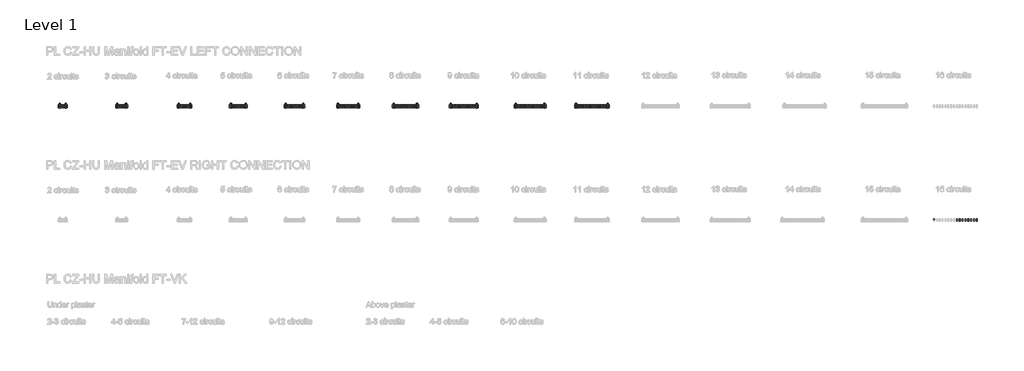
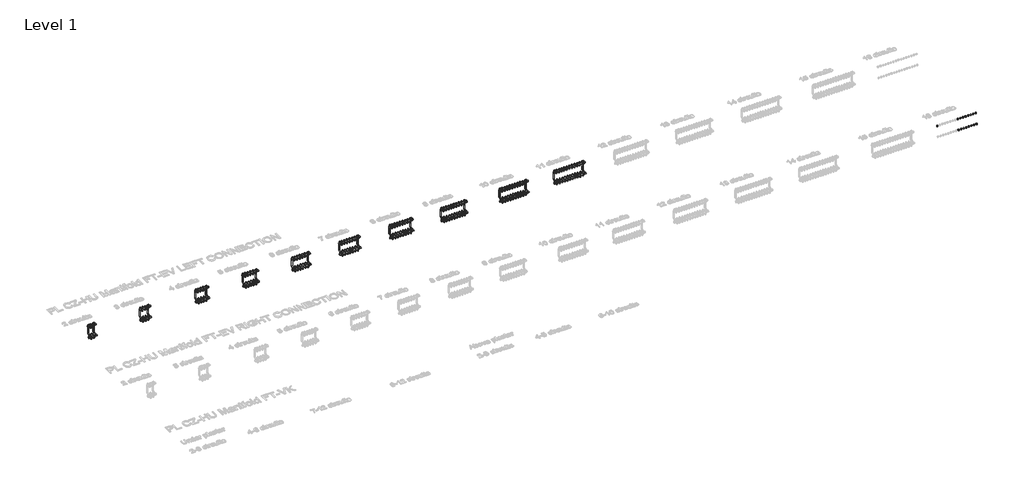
# One storey, part 3 of 13: 126 pipe fittings, 10 valves.
"""IFC4 building model written with IfcOpenShell, lengths in millimetres."""

from ifc_helpers import new_model, si_unit, origin, place, context, project, spatial, transform, mapped, element, save
from components import pipe_fitting_03c6499f, valve_ba84b301, valve_6797e1c4, valve_1d137561, valve_fda01fd1, valve_d8e88841, valve_cedec59f, valve_da24817b, valve_cd8652ac, valve_1cd17e95, valve_440f56c5, valve_c1a5959c, valve_5755080d, valve_f5936556, valve_d1a48dd4, valve_9c135178, valve_fde89ab8, valve_2528c4ae, valve_8079e6f7, valve_ce1a9fe1, valve_b9d05faa, valve_5ebee82e

model = new_model("IFC4")

# Units and contexts
model_context = context("Model", 3, world=origin())
ifc_project = project(units=[si_unit("LENGTHUNIT", "METRE", prefix="MILLI")], contexts=[model_context])

# Site, building, storey
site = spatial("IfcSite", under=ifc_project)
building = spatial("IfcBuilding", under=site)
storey = spatial("IfcBuildingStorey", under=building, Name="Level 1", Elevation=0.0)

# Pipe fittings
placement = place(None, origin())
pipe_fitting_shape = pipe_fitting_03c6499f(model_context)
element("IfcPipeFitting", 1, ObjectType="Euroconus screwing for multilayer pipes - Manifold FT : Euroconus screwing for multilayer pipes - Manifold FT", at=placement, inside=storey, context=model_context, shape_type="MappedRepresentation", body=[
    mapped(pipe_fitting_shape, transform((1338.7757306, 1582.3227774, -37.0816103), x_axis=(0.0, 0.0, -1.0), y_axis=(0.0, 1.0000000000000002, 0.0), z_axis=(1.0000000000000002, 0.0, 0.0))),
])
element("IfcPipeFitting", 2, ObjectType="Euroconus screwing for multilayer pipes - Manifold FT : Euroconus screwing for multilayer pipes - Manifold FT", at=placement, inside=storey, context=model_context, shape_type="MappedRepresentation", body=[
    mapped(pipe_fitting_shape, transform((1288.7757306, 1582.3227774, -37.0816103), x_axis=(0.0, 0.0, -1.0), y_axis=(0.0, 1.0000000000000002, 0.0), z_axis=(1.0000000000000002, 0.0, 0.0))),
])
element("IfcPipeFitting", 3, ObjectType="Euroconus screwing for multilayer pipes - Manifold FT : Euroconus screwing for multilayer pipes - Manifold FT", at=placement, inside=storey, context=model_context, shape_type="MappedRepresentation", body=[
    mapped(pipe_fitting_shape, transform((1338.7757306, 1607.3227774, 172.88733), x_axis=(0.0, 0.0, -1.0), y_axis=(0.0, 1.0000000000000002, 0.0), z_axis=(1.0000000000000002, 0.0, 0.0))),
])
element("IfcPipeFitting", 4, ObjectType="Euroconus screwing for multilayer pipes - Manifold FT : Euroconus screwing for multilayer pipes - Manifold FT", at=placement, inside=storey, context=model_context, shape_type="MappedRepresentation", body=[
    mapped(pipe_fitting_shape, transform((1288.7757306, 1607.3227774, 172.88733), x_axis=(0.0, 0.0, -1.0), y_axis=(0.0, 1.0000000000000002, 0.0), z_axis=(1.0000000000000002, 0.0, 0.0))),
])
element("IfcPipeFitting", 5, ObjectType="Euroconus screwing for multilayer pipes - Manifold FT : Euroconus screwing for multilayer pipes - Manifold FT", at=placement, inside=storey, context=model_context, shape_type="MappedRepresentation", body=[
    mapped(pipe_fitting_shape, transform((2347.2354504, 1582.3227774, -37.0816103), x_axis=(0.0, 0.0, -1.0), y_axis=(0.0, 1.0000000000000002, 0.0), z_axis=(1.0000000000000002, 0.0, 0.0))),
])
element("IfcPipeFitting", 6, ObjectType="Euroconus screwing for multilayer pipes - Manifold FT : Euroconus screwing for multilayer pipes - Manifold FT", at=placement, inside=storey, context=model_context, shape_type="MappedRepresentation", body=[
    mapped(pipe_fitting_shape, transform((2397.2354504, 1582.3227774, -37.0816103), x_axis=(0.0, 0.0, -1.0), y_axis=(0.0, 1.0000000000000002, 0.0), z_axis=(1.0000000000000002, 0.0, 0.0))),
])
element("IfcPipeFitting", 7, ObjectType="Euroconus screwing for multilayer pipes - Manifold FT : Euroconus screwing for multilayer pipes - Manifold FT", at=placement, inside=storey, context=model_context, shape_type="MappedRepresentation", body=[
    mapped(pipe_fitting_shape, transform((2297.2354504, 1582.3227774, -37.0816103), x_axis=(0.0, 0.0, -1.0), y_axis=(0.0, 1.0000000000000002, 0.0), z_axis=(1.0000000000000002, 0.0, 0.0))),
])
element("IfcPipeFitting", 8, ObjectType="Euroconus screwing for multilayer pipes - Manifold FT : Euroconus screwing for multilayer pipes - Manifold FT", at=placement, inside=storey, context=model_context, shape_type="MappedRepresentation", body=[
    mapped(pipe_fitting_shape, transform((2347.2354504, 1607.3227774, 172.88733), x_axis=(0.0, 0.0, -1.0), y_axis=(0.0, 1.0000000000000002, 0.0), z_axis=(1.0000000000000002, 0.0, 0.0))),
])
element("IfcPipeFitting", 9, ObjectType="Euroconus screwing for multilayer pipes - Manifold FT : Euroconus screwing for multilayer pipes - Manifold FT", at=placement, inside=storey, context=model_context, shape_type="MappedRepresentation", body=[
    mapped(pipe_fitting_shape, transform((2397.2354504, 1607.3227774, 172.88733), x_axis=(0.0, 0.0, -1.0), y_axis=(0.0, 1.0000000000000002, 0.0), z_axis=(1.0000000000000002, 0.0, 0.0))),
])
element("IfcPipeFitting", 10, ObjectType="Euroconus screwing for multilayer pipes - Manifold FT : Euroconus screwing for multilayer pipes - Manifold FT", at=placement, inside=storey, context=model_context, shape_type="MappedRepresentation", body=[
    mapped(pipe_fitting_shape, transform((2297.2354504, 1607.3227774, 172.88733), x_axis=(0.0, 0.0, -1.0), y_axis=(0.0, 1.0000000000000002, 0.0), z_axis=(1.0000000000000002, 0.0, 0.0))),
])
element("IfcPipeFitting", 11, ObjectType="Euroconus screwing for multilayer pipes - Manifold FT : Euroconus screwing for multilayer pipes - Manifold FT", at=placement, inside=storey, context=model_context, shape_type="MappedRepresentation", body=[
    mapped(pipe_fitting_shape, transform((3477.2354504, 1582.3227774, -37.0816103), x_axis=(0.0, 0.0, -1.0), y_axis=(0.0, 1.0000000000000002, 0.0), z_axis=(1.0000000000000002, 0.0, 0.0))),
])
element("IfcPipeFitting", 12, ObjectType="Euroconus screwing for multilayer pipes - Manifold FT : Euroconus screwing for multilayer pipes - Manifold FT", at=placement, inside=storey, context=model_context, shape_type="MappedRepresentation", body=[
    mapped(pipe_fitting_shape, transform((3427.2354504, 1582.3227774, -37.0816103), x_axis=(0.0, 0.0, -1.0), y_axis=(0.0, 1.0000000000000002, 0.0), z_axis=(1.0000000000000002, 0.0, 0.0))),
])
element("IfcPipeFitting", 13, ObjectType="Euroconus screwing for multilayer pipes - Manifold FT : Euroconus screwing for multilayer pipes - Manifold FT", at=placement, inside=storey, context=model_context, shape_type="MappedRepresentation", body=[
    mapped(pipe_fitting_shape, transform((3527.2354504, 1582.3227774, -37.0816103), x_axis=(0.0, 0.0, -1.0), y_axis=(0.0, 1.0000000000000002, 0.0), z_axis=(1.0000000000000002, 0.0, 0.0))),
])
element("IfcPipeFitting", 14, ObjectType="Euroconus screwing for multilayer pipes - Manifold FT : Euroconus screwing for multilayer pipes - Manifold FT", at=placement, inside=storey, context=model_context, shape_type="MappedRepresentation", body=[
    mapped(pipe_fitting_shape, transform((3377.2354504, 1582.3227774, -37.0816103), x_axis=(0.0, 0.0, -1.0), y_axis=(0.0, 1.0000000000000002, 0.0), z_axis=(1.0000000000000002, 0.0, 0.0))),
])
element("IfcPipeFitting", 15, ObjectType="Euroconus screwing for multilayer pipes - Manifold FT : Euroconus screwing for multilayer pipes - Manifold FT", at=placement, inside=storey, context=model_context, shape_type="MappedRepresentation", body=[
    mapped(pipe_fitting_shape, transform((3477.2354504, 1607.3227774, 172.88733), x_axis=(0.0, 0.0, -1.0), y_axis=(0.0, 1.0000000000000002, 0.0), z_axis=(1.0000000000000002, 0.0, 0.0))),
])
element("IfcPipeFitting", 16, ObjectType="Euroconus screwing for multilayer pipes - Manifold FT : Euroconus screwing for multilayer pipes - Manifold FT", at=placement, inside=storey, context=model_context, shape_type="MappedRepresentation", body=[
    mapped(pipe_fitting_shape, transform((3427.2354504, 1607.3227774, 172.88733), x_axis=(0.0, 0.0, -1.0), y_axis=(0.0, 1.0000000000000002, 0.0), z_axis=(1.0000000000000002, 0.0, 0.0))),
])
element("IfcPipeFitting", 17, ObjectType="Euroconus screwing for multilayer pipes - Manifold FT : Euroconus screwing for multilayer pipes - Manifold FT", at=placement, inside=storey, context=model_context, shape_type="MappedRepresentation", body=[
    mapped(pipe_fitting_shape, transform((3527.2354504, 1607.3227774, 172.88733), x_axis=(0.0, 0.0, -1.0), y_axis=(0.0, 1.0000000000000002, 0.0), z_axis=(1.0000000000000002, 0.0, 0.0))),
])
element("IfcPipeFitting", 18, ObjectType="Euroconus screwing for multilayer pipes - Manifold FT : Euroconus screwing for multilayer pipes - Manifold FT", at=placement, inside=storey, context=model_context, shape_type="MappedRepresentation", body=[
    mapped(pipe_fitting_shape, transform((3377.2354504, 1607.3227774, 172.88733), x_axis=(0.0, 0.0, -1.0), y_axis=(0.0, 1.0000000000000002, 0.0), z_axis=(1.0000000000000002, 0.0, 0.0))),
])
element("IfcPipeFitting", 19, ObjectType="Euroconus screwing for multilayer pipes - Manifold FT : Euroconus screwing for multilayer pipes - Manifold FT", at=placement, inside=storey, context=model_context, shape_type="MappedRepresentation", body=[
    mapped(pipe_fitting_shape, transform((4447.2354504, 1582.3227774, -37.0816103), x_axis=(0.0, 0.0, -1.0), y_axis=(0.0, 1.0000000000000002, 0.0), z_axis=(1.0000000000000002, 0.0, 0.0))),
])
element("IfcPipeFitting", 20, ObjectType="Euroconus screwing for multilayer pipes - Manifold FT : Euroconus screwing for multilayer pipes - Manifold FT", at=placement, inside=storey, context=model_context, shape_type="MappedRepresentation", body=[
    mapped(pipe_fitting_shape, transform((4397.2354504, 1582.3227774, -37.0816103), x_axis=(0.0, 0.0, -1.0), y_axis=(0.0, 1.0000000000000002, 0.0), z_axis=(1.0000000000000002, 0.0, 0.0))),
])
element("IfcPipeFitting", 21, ObjectType="Euroconus screwing for multilayer pipes - Manifold FT : Euroconus screwing for multilayer pipes - Manifold FT", at=placement, inside=storey, context=model_context, shape_type="MappedRepresentation", body=[
    mapped(pipe_fitting_shape, transform((4347.2354504, 1582.3227774, -37.0816103), x_axis=(0.0, 0.0, -1.0), y_axis=(0.0, 1.0000000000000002, 0.0), z_axis=(1.0000000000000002, 0.0, 0.0))),
])
element("IfcPipeFitting", 22, ObjectType="Euroconus screwing for multilayer pipes - Manifold FT : Euroconus screwing for multilayer pipes - Manifold FT", at=placement, inside=storey, context=model_context, shape_type="MappedRepresentation", body=[
    mapped(pipe_fitting_shape, transform((4497.2354504, 1582.3227774, -37.0816103), x_axis=(0.0, 0.0, -1.0), y_axis=(0.0, 1.0000000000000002, 0.0), z_axis=(1.0000000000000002, 0.0, 0.0))),
])
element("IfcPipeFitting", 23, ObjectType="Euroconus screwing for multilayer pipes - Manifold FT : Euroconus screwing for multilayer pipes - Manifold FT", at=placement, inside=storey, context=model_context, shape_type="MappedRepresentation", body=[
    mapped(pipe_fitting_shape, transform((4297.2354504, 1582.3227774, -37.0816103), x_axis=(0.0, 0.0, -1.0), y_axis=(0.0, 1.0000000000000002, 0.0), z_axis=(1.0000000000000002, 0.0, 0.0))),
])
element("IfcPipeFitting", 24, ObjectType="Euroconus screwing for multilayer pipes - Manifold FT : Euroconus screwing for multilayer pipes - Manifold FT", at=placement, inside=storey, context=model_context, shape_type="MappedRepresentation", body=[
    mapped(pipe_fitting_shape, transform((4447.2354504, 1607.3227774, 172.88733), x_axis=(0.0, 0.0, -1.0), y_axis=(0.0, 1.0000000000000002, 0.0), z_axis=(1.0000000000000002, 0.0, 0.0))),
])
element("IfcPipeFitting", 25, ObjectType="Euroconus screwing for multilayer pipes - Manifold FT : Euroconus screwing for multilayer pipes - Manifold FT", at=placement, inside=storey, context=model_context, shape_type="MappedRepresentation", body=[
    mapped(pipe_fitting_shape, transform((4397.2354504, 1607.3227774, 172.88733), x_axis=(0.0, 0.0, -1.0), y_axis=(0.0, 1.0000000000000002, 0.0), z_axis=(1.0000000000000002, 0.0, 0.0))),
])
element("IfcPipeFitting", 26, ObjectType="Euroconus screwing for multilayer pipes - Manifold FT : Euroconus screwing for multilayer pipes - Manifold FT", at=placement, inside=storey, context=model_context, shape_type="MappedRepresentation", body=[
    mapped(pipe_fitting_shape, transform((4347.2354504, 1607.3227774, 172.88733), x_axis=(0.0, 0.0, -1.0), y_axis=(0.0, 1.0000000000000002, 0.0), z_axis=(1.0000000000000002, 0.0, 0.0))),
])
element("IfcPipeFitting", 27, ObjectType="Euroconus screwing for multilayer pipes - Manifold FT : Euroconus screwing for multilayer pipes - Manifold FT", at=placement, inside=storey, context=model_context, shape_type="MappedRepresentation", body=[
    mapped(pipe_fitting_shape, transform((4497.2354504, 1607.3227774, 172.88733), x_axis=(0.0, 0.0, -1.0), y_axis=(0.0, 1.0000000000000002, 0.0), z_axis=(1.0000000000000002, 0.0, 0.0))),
])
element("IfcPipeFitting", 28, ObjectType="Euroconus screwing for multilayer pipes - Manifold FT : Euroconus screwing for multilayer pipes - Manifold FT", at=placement, inside=storey, context=model_context, shape_type="MappedRepresentation", body=[
    mapped(pipe_fitting_shape, transform((4297.2354504, 1607.3227774, 172.88733), x_axis=(0.0, 0.0, -1.0), y_axis=(0.0, 1.0000000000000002, 0.0), z_axis=(1.0000000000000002, 0.0, 0.0))),
])
element("IfcPipeFitting", 29, ObjectType="Euroconus screwing for multilayer pipes - Manifold FT : Euroconus screwing for multilayer pipes - Manifold FT", at=placement, inside=storey, context=model_context, shape_type="MappedRepresentation", body=[
    mapped(pipe_fitting_shape, transform((5457.2354504, 1582.3227774, -37.0816103), x_axis=(0.0, 0.0, -1.0), y_axis=(0.0, 1.0000000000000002, 0.0), z_axis=(1.0000000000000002, 0.0, 0.0))),
])
element("IfcPipeFitting", 30, ObjectType="Euroconus screwing for multilayer pipes - Manifold FT : Euroconus screwing for multilayer pipes - Manifold FT", at=placement, inside=storey, context=model_context, shape_type="MappedRepresentation", body=[
    mapped(pipe_fitting_shape, transform((5407.2354504, 1582.3227774, -37.0816103), x_axis=(0.0, 0.0, -1.0), y_axis=(0.0, 1.0000000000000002, 0.0), z_axis=(1.0000000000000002, 0.0, 0.0))),
])
element("IfcPipeFitting", 31, ObjectType="Euroconus screwing for multilayer pipes - Manifold FT : Euroconus screwing for multilayer pipes - Manifold FT", at=placement, inside=storey, context=model_context, shape_type="MappedRepresentation", body=[
    mapped(pipe_fitting_shape, transform((5357.2354504, 1582.3227774, -37.0816103), x_axis=(0.0, 0.0, -1.0), y_axis=(0.0, 1.0000000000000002, 0.0), z_axis=(1.0000000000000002, 0.0, 0.0))),
])
element("IfcPipeFitting", 32, ObjectType="Euroconus screwing for multilayer pipes - Manifold FT : Euroconus screwing for multilayer pipes - Manifold FT", at=placement, inside=storey, context=model_context, shape_type="MappedRepresentation", body=[
    mapped(pipe_fitting_shape, transform((5307.2354504, 1582.3227774, -37.0816103), x_axis=(0.0, 0.0, -1.0), y_axis=(0.0, 1.0000000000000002, 0.0), z_axis=(1.0000000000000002, 0.0, 0.0))),
])
element("IfcPipeFitting", 33, ObjectType="Euroconus screwing for multilayer pipes - Manifold FT : Euroconus screwing for multilayer pipes - Manifold FT", at=placement, inside=storey, context=model_context, shape_type="MappedRepresentation", body=[
    mapped(pipe_fitting_shape, transform((5507.2354504, 1582.3227774, -37.0816103), x_axis=(0.0, 0.0, -1.0), y_axis=(0.0, 1.0000000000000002, 0.0), z_axis=(1.0000000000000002, 0.0, 0.0))),
])
element("IfcPipeFitting", 34, ObjectType="Euroconus screwing for multilayer pipes - Manifold FT : Euroconus screwing for multilayer pipes - Manifold FT", at=placement, inside=storey, context=model_context, shape_type="MappedRepresentation", body=[
    mapped(pipe_fitting_shape, transform((5257.2354504, 1582.3227774, -37.0816103), x_axis=(0.0, 0.0, -1.0), y_axis=(0.0, 1.0000000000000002, 0.0), z_axis=(1.0000000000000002, 0.0, 0.0))),
])
element("IfcPipeFitting", 35, ObjectType="Euroconus screwing for multilayer pipes - Manifold FT : Euroconus screwing for multilayer pipes - Manifold FT", at=placement, inside=storey, context=model_context, shape_type="MappedRepresentation", body=[
    mapped(pipe_fitting_shape, transform((5457.2354504, 1607.3227774, 172.88733), x_axis=(0.0, 0.0, -1.0), y_axis=(0.0, 1.0000000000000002, 0.0), z_axis=(1.0000000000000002, 0.0, 0.0))),
])
element("IfcPipeFitting", 36, ObjectType="Euroconus screwing for multilayer pipes - Manifold FT : Euroconus screwing for multilayer pipes - Manifold FT", at=placement, inside=storey, context=model_context, shape_type="MappedRepresentation", body=[
    mapped(pipe_fitting_shape, transform((5407.2354504, 1607.3227774, 172.88733), x_axis=(0.0, 0.0, -1.0), y_axis=(0.0, 1.0000000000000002, 0.0), z_axis=(1.0000000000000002, 0.0, 0.0))),
])
element("IfcPipeFitting", 37, ObjectType="Euroconus screwing for multilayer pipes - Manifold FT : Euroconus screwing for multilayer pipes - Manifold FT", at=placement, inside=storey, context=model_context, shape_type="MappedRepresentation", body=[
    mapped(pipe_fitting_shape, transform((5357.2354504, 1607.3227774, 172.88733), x_axis=(0.0, 0.0, -1.0), y_axis=(0.0, 1.0000000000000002, 0.0), z_axis=(1.0000000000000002, 0.0, 0.0))),
])
element("IfcPipeFitting", 38, ObjectType="Euroconus screwing for multilayer pipes - Manifold FT : Euroconus screwing for multilayer pipes - Manifold FT", at=placement, inside=storey, context=model_context, shape_type="MappedRepresentation", body=[
    mapped(pipe_fitting_shape, transform((5307.2354504, 1607.3227774, 172.88733), x_axis=(0.0, 0.0, -1.0), y_axis=(0.0, 1.0000000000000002, 0.0), z_axis=(1.0000000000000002, 0.0, 0.0))),
])
element("IfcPipeFitting", 39, ObjectType="Euroconus screwing for multilayer pipes - Manifold FT : Euroconus screwing for multilayer pipes - Manifold FT", at=placement, inside=storey, context=model_context, shape_type="MappedRepresentation", body=[
    mapped(pipe_fitting_shape, transform((5507.2354504, 1607.3227774, 172.88733), x_axis=(0.0, 0.0, -1.0), y_axis=(0.0, 1.0000000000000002, 0.0), z_axis=(1.0000000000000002, 0.0, 0.0))),
])
element("IfcPipeFitting", 40, ObjectType="Euroconus screwing for multilayer pipes - Manifold FT : Euroconus screwing for multilayer pipes - Manifold FT", at=placement, inside=storey, context=model_context, shape_type="MappedRepresentation", body=[
    mapped(pipe_fitting_shape, transform((5257.2354504, 1607.3227774, 172.88733), x_axis=(0.0, 0.0, -1.0), y_axis=(0.0, 1.0000000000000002, 0.0), z_axis=(1.0000000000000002, 0.0, 0.0))),
])
element("IfcPipeFitting", 41, ObjectType="Euroconus screwing for multilayer pipes - Manifold FT : Euroconus screwing for multilayer pipes - Manifold FT", at=placement, inside=storey, context=model_context, shape_type="MappedRepresentation", body=[
    mapped(pipe_fitting_shape, transform((6427.2354504, 1582.3227774, -37.0816103), x_axis=(0.0, 0.0, -1.0), y_axis=(0.0, 1.0000000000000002, 0.0), z_axis=(1.0000000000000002, 0.0, 0.0))),
])
element("IfcPipeFitting", 42, ObjectType="Euroconus screwing for multilayer pipes - Manifold FT : Euroconus screwing for multilayer pipes - Manifold FT", at=placement, inside=storey, context=model_context, shape_type="MappedRepresentation", body=[
    mapped(pipe_fitting_shape, transform((6377.2354504, 1582.3227774, -37.0816103), x_axis=(0.0, 0.0, -1.0), y_axis=(0.0, 1.0000000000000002, 0.0), z_axis=(1.0000000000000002, 0.0, 0.0))),
])
element("IfcPipeFitting", 43, ObjectType="Euroconus screwing for multilayer pipes - Manifold FT : Euroconus screwing for multilayer pipes - Manifold FT", at=placement, inside=storey, context=model_context, shape_type="MappedRepresentation", body=[
    mapped(pipe_fitting_shape, transform((6327.2354504, 1582.3227774, -37.0816103), x_axis=(0.0, 0.0, -1.0), y_axis=(0.0, 1.0000000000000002, 0.0), z_axis=(1.0000000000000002, 0.0, 0.0))),
])
element("IfcPipeFitting", 44, ObjectType="Euroconus screwing for multilayer pipes - Manifold FT : Euroconus screwing for multilayer pipes - Manifold FT", at=placement, inside=storey, context=model_context, shape_type="MappedRepresentation", body=[
    mapped(pipe_fitting_shape, transform((6277.2354504, 1582.3227774, -37.0816103), x_axis=(0.0, 0.0, -1.0), y_axis=(0.0, 1.0000000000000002, 0.0), z_axis=(1.0000000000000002, 0.0, 0.0))),
])
element("IfcPipeFitting", 45, ObjectType="Euroconus screwing for multilayer pipes - Manifold FT : Euroconus screwing for multilayer pipes - Manifold FT", at=placement, inside=storey, context=model_context, shape_type="MappedRepresentation", body=[
    mapped(pipe_fitting_shape, transform((6227.2354504, 1582.3227774, -37.0816103), x_axis=(0.0, 0.0, -1.0), y_axis=(0.0, 1.0000000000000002, 0.0), z_axis=(1.0000000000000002, 0.0, 0.0))),
])
element("IfcPipeFitting", 46, ObjectType="Euroconus screwing for multilayer pipes - Manifold FT : Euroconus screwing for multilayer pipes - Manifold FT", at=placement, inside=storey, context=model_context, shape_type="MappedRepresentation", body=[
    mapped(pipe_fitting_shape, transform((6477.2354504, 1582.3227774, -37.0816103), x_axis=(0.0, 0.0, -1.0), y_axis=(0.0, 1.0000000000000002, 0.0), z_axis=(1.0000000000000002, 0.0, 0.0))),
])
element("IfcPipeFitting", 47, ObjectType="Euroconus screwing for multilayer pipes - Manifold FT : Euroconus screwing for multilayer pipes - Manifold FT", at=placement, inside=storey, context=model_context, shape_type="MappedRepresentation", body=[
    mapped(pipe_fitting_shape, transform((6177.2354504, 1582.3227774, -37.0816103), x_axis=(0.0, 0.0, -1.0), y_axis=(0.0, 1.0000000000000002, 0.0), z_axis=(1.0000000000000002, 0.0, 0.0))),
])
element("IfcPipeFitting", 48, ObjectType="Euroconus screwing for multilayer pipes - Manifold FT : Euroconus screwing for multilayer pipes - Manifold FT", at=placement, inside=storey, context=model_context, shape_type="MappedRepresentation", body=[
    mapped(pipe_fitting_shape, transform((6427.2354504, 1607.3227774, 172.88733), x_axis=(0.0, 0.0, -1.0), y_axis=(0.0, 1.0000000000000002, 0.0), z_axis=(1.0000000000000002, 0.0, 0.0))),
])
element("IfcPipeFitting", 49, ObjectType="Euroconus screwing for multilayer pipes - Manifold FT : Euroconus screwing for multilayer pipes - Manifold FT", at=placement, inside=storey, context=model_context, shape_type="MappedRepresentation", body=[
    mapped(pipe_fitting_shape, transform((6377.2354504, 1607.3227774, 172.88733), x_axis=(0.0, 0.0, -1.0), y_axis=(0.0, 1.0000000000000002, 0.0), z_axis=(1.0000000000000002, 0.0, 0.0))),
])
element("IfcPipeFitting", 50, ObjectType="Euroconus screwing for multilayer pipes - Manifold FT : Euroconus screwing for multilayer pipes - Manifold FT", at=placement, inside=storey, context=model_context, shape_type="MappedRepresentation", body=[
    mapped(pipe_fitting_shape, transform((6327.2354504, 1607.3227774, 172.88733), x_axis=(0.0, 0.0, -1.0), y_axis=(0.0, 1.0000000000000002, 0.0), z_axis=(1.0000000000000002, 0.0, 0.0))),
])
element("IfcPipeFitting", 51, ObjectType="Euroconus screwing for multilayer pipes - Manifold FT : Euroconus screwing for multilayer pipes - Manifold FT", at=placement, inside=storey, context=model_context, shape_type="MappedRepresentation", body=[
    mapped(pipe_fitting_shape, transform((6277.2354504, 1607.3227774, 172.88733), x_axis=(0.0, 0.0, -1.0), y_axis=(0.0, 1.0000000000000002, 0.0), z_axis=(1.0000000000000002, 0.0, 0.0))),
])
element("IfcPipeFitting", 52, ObjectType="Euroconus screwing for multilayer pipes - Manifold FT : Euroconus screwing for multilayer pipes - Manifold FT", at=placement, inside=storey, context=model_context, shape_type="MappedRepresentation", body=[
    mapped(pipe_fitting_shape, transform((6227.2354504, 1607.3227774, 172.88733), x_axis=(0.0, 0.0, -1.0), y_axis=(0.0, 1.0000000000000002, 0.0), z_axis=(1.0000000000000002, 0.0, 0.0))),
])
element("IfcPipeFitting", 53, ObjectType="Euroconus screwing for multilayer pipes - Manifold FT : Euroconus screwing for multilayer pipes - Manifold FT", at=placement, inside=storey, context=model_context, shape_type="MappedRepresentation", body=[
    mapped(pipe_fitting_shape, transform((6477.2354504, 1607.3227774, 172.88733), x_axis=(0.0, 0.0, -1.0), y_axis=(0.0, 1.0000000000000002, 0.0), z_axis=(1.0000000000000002, 0.0, 0.0))),
])
element("IfcPipeFitting", 54, ObjectType="Euroconus screwing for multilayer pipes - Manifold FT : Euroconus screwing for multilayer pipes - Manifold FT", at=placement, inside=storey, context=model_context, shape_type="MappedRepresentation", body=[
    mapped(pipe_fitting_shape, transform((6177.2354504, 1607.3227774, 172.88733), x_axis=(0.0, 0.0, -1.0), y_axis=(0.0, 1.0000000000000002, 0.0), z_axis=(1.0000000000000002, 0.0, 0.0))),
])
element("IfcPipeFitting", 55, ObjectType="Euroconus screwing for multilayer pipes - Manifold FT : Euroconus screwing for multilayer pipes - Manifold FT", at=placement, inside=storey, context=model_context, shape_type="MappedRepresentation", body=[
    mapped(pipe_fitting_shape, transform((7457.2354504, 1582.3227774, -37.0816103), x_axis=(0.0, 0.0, -1.0), y_axis=(0.0, 1.0000000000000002, 0.0), z_axis=(1.0000000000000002, 0.0, 0.0))),
])
element("IfcPipeFitting", 56, ObjectType="Euroconus screwing for multilayer pipes - Manifold FT : Euroconus screwing for multilayer pipes - Manifold FT", at=placement, inside=storey, context=model_context, shape_type="MappedRepresentation", body=[
    mapped(pipe_fitting_shape, transform((7407.2354504, 1582.3227774, -37.0816103), x_axis=(0.0, 0.0, -1.0), y_axis=(0.0, 1.0000000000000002, 0.0), z_axis=(1.0000000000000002, 0.0, 0.0))),
])
element("IfcPipeFitting", 57, ObjectType="Euroconus screwing for multilayer pipes - Manifold FT : Euroconus screwing for multilayer pipes - Manifold FT", at=placement, inside=storey, context=model_context, shape_type="MappedRepresentation", body=[
    mapped(pipe_fitting_shape, transform((7357.2354504, 1582.3227774, -37.0816103), x_axis=(0.0, 0.0, -1.0), y_axis=(0.0, 1.0000000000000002, 0.0), z_axis=(1.0000000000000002, 0.0, 0.0))),
])
element("IfcPipeFitting", 58, ObjectType="Euroconus screwing for multilayer pipes - Manifold FT : Euroconus screwing for multilayer pipes - Manifold FT", at=placement, inside=storey, context=model_context, shape_type="MappedRepresentation", body=[
    mapped(pipe_fitting_shape, transform((7307.2354504, 1582.3227774, -37.0816103), x_axis=(0.0, 0.0, -1.0), y_axis=(0.0, 1.0000000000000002, 0.0), z_axis=(1.0000000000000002, 0.0, 0.0))),
])
element("IfcPipeFitting", 59, ObjectType="Euroconus screwing for multilayer pipes - Manifold FT : Euroconus screwing for multilayer pipes - Manifold FT", at=placement, inside=storey, context=model_context, shape_type="MappedRepresentation", body=[
    mapped(pipe_fitting_shape, transform((7257.2354504, 1582.3227774, -37.0816103), x_axis=(0.0, 0.0, -1.0), y_axis=(0.0, 1.0000000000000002, 0.0), z_axis=(1.0000000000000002, 0.0, 0.0))),
])
element("IfcPipeFitting", 60, ObjectType="Euroconus screwing for multilayer pipes - Manifold FT : Euroconus screwing for multilayer pipes - Manifold FT", at=placement, inside=storey, context=model_context, shape_type="MappedRepresentation", body=[
    mapped(pipe_fitting_shape, transform((7207.2354504, 1582.3227774, -37.0816103), x_axis=(0.0, 0.0, -1.0), y_axis=(0.0, 1.0000000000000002, 0.0), z_axis=(1.0000000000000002, 0.0, 0.0))),
])
element("IfcPipeFitting", 61, ObjectType="Euroconus screwing for multilayer pipes - Manifold FT : Euroconus screwing for multilayer pipes - Manifold FT", at=placement, inside=storey, context=model_context, shape_type="MappedRepresentation", body=[
    mapped(pipe_fitting_shape, transform((7507.2354504, 1582.3227774, -37.0816103), x_axis=(0.0, 0.0, -1.0), y_axis=(0.0, 1.0000000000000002, 0.0), z_axis=(1.0000000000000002, 0.0, 0.0))),
])
element("IfcPipeFitting", 62, ObjectType="Euroconus screwing for multilayer pipes - Manifold FT : Euroconus screwing for multilayer pipes - Manifold FT", at=placement, inside=storey, context=model_context, shape_type="MappedRepresentation", body=[
    mapped(pipe_fitting_shape, transform((7157.2354504, 1582.3227774, -37.0816103), x_axis=(0.0, 0.0, -1.0), y_axis=(0.0, 1.0000000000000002, 0.0), z_axis=(1.0000000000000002, 0.0, 0.0))),
])
element("IfcPipeFitting", 63, ObjectType="Euroconus screwing for multilayer pipes - Manifold FT : Euroconus screwing for multilayer pipes - Manifold FT", at=placement, inside=storey, context=model_context, shape_type="MappedRepresentation", body=[
    mapped(pipe_fitting_shape, transform((7457.2354504, 1607.3227774, 172.88733), x_axis=(0.0, 0.0, -1.0), y_axis=(0.0, 1.0000000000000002, 0.0), z_axis=(1.0000000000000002, 0.0, 0.0))),
])
element("IfcPipeFitting", 64, ObjectType="Euroconus screwing for multilayer pipes - Manifold FT : Euroconus screwing for multilayer pipes - Manifold FT", at=placement, inside=storey, context=model_context, shape_type="MappedRepresentation", body=[
    mapped(pipe_fitting_shape, transform((7407.2354504, 1607.3227774, 172.88733), x_axis=(0.0, 0.0, -1.0), y_axis=(0.0, 1.0000000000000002, 0.0), z_axis=(1.0000000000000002, 0.0, 0.0))),
])
element("IfcPipeFitting", 65, ObjectType="Euroconus screwing for multilayer pipes - Manifold FT : Euroconus screwing for multilayer pipes - Manifold FT", at=placement, inside=storey, context=model_context, shape_type="MappedRepresentation", body=[
    mapped(pipe_fitting_shape, transform((7357.2354504, 1607.3227774, 172.88733), x_axis=(0.0, 0.0, -1.0), y_axis=(0.0, 1.0000000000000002, 0.0), z_axis=(1.0000000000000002, 0.0, 0.0))),
])
element("IfcPipeFitting", 66, ObjectType="Euroconus screwing for multilayer pipes - Manifold FT : Euroconus screwing for multilayer pipes - Manifold FT", at=placement, inside=storey, context=model_context, shape_type="MappedRepresentation", body=[
    mapped(pipe_fitting_shape, transform((7307.2354504, 1607.3227774, 172.88733), x_axis=(0.0, 0.0, -1.0), y_axis=(0.0, 1.0000000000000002, 0.0), z_axis=(1.0000000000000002, 0.0, 0.0))),
])
element("IfcPipeFitting", 67, ObjectType="Euroconus screwing for multilayer pipes - Manifold FT : Euroconus screwing for multilayer pipes - Manifold FT", at=placement, inside=storey, context=model_context, shape_type="MappedRepresentation", body=[
    mapped(pipe_fitting_shape, transform((7257.2354504, 1607.3227774, 172.88733), x_axis=(0.0, 0.0, -1.0), y_axis=(0.0, 1.0000000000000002, 0.0), z_axis=(1.0000000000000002, 0.0, 0.0))),
])
element("IfcPipeFitting", 68, ObjectType="Euroconus screwing for multilayer pipes - Manifold FT : Euroconus screwing for multilayer pipes - Manifold FT", at=placement, inside=storey, context=model_context, shape_type="MappedRepresentation", body=[
    mapped(pipe_fitting_shape, transform((7207.2354504, 1607.3227774, 172.88733), x_axis=(0.0, 0.0, -1.0), y_axis=(0.0, 1.0000000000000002, 0.0), z_axis=(1.0000000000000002, 0.0, 0.0))),
])
element("IfcPipeFitting", 69, ObjectType="Euroconus screwing for multilayer pipes - Manifold FT : Euroconus screwing for multilayer pipes - Manifold FT", at=placement, inside=storey, context=model_context, shape_type="MappedRepresentation", body=[
    mapped(pipe_fitting_shape, transform((7507.2354504, 1607.3227774, 172.88733), x_axis=(0.0, 0.0, -1.0), y_axis=(0.0, 1.0000000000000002, 0.0), z_axis=(1.0000000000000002, 0.0, 0.0))),
])
element("IfcPipeFitting", 70, ObjectType="Euroconus screwing for multilayer pipes - Manifold FT : Euroconus screwing for multilayer pipes - Manifold FT", at=placement, inside=storey, context=model_context, shape_type="MappedRepresentation", body=[
    mapped(pipe_fitting_shape, transform((7157.2354504, 1607.3227774, 172.88733), x_axis=(0.0, 0.0, -1.0), y_axis=(0.0, 1.0000000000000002, 0.0), z_axis=(1.0000000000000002, 0.0, 0.0))),
])
element("IfcPipeFitting", 71, ObjectType="Euroconus screwing for multilayer pipes - Manifold FT : Euroconus screwing for multilayer pipes - Manifold FT", at=placement, inside=storey, context=model_context, shape_type="MappedRepresentation", body=[
    mapped(pipe_fitting_shape, transform((8507.2354504, 1582.3227774, -37.0816103), x_axis=(0.0, 0.0, -1.0), y_axis=(0.0, 1.0000000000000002, 0.0), z_axis=(1.0000000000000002, 0.0, 0.0))),
])
element("IfcPipeFitting", 72, ObjectType="Euroconus screwing for multilayer pipes - Manifold FT : Euroconus screwing for multilayer pipes - Manifold FT", at=placement, inside=storey, context=model_context, shape_type="MappedRepresentation", body=[
    mapped(pipe_fitting_shape, transform((8457.2354504, 1582.3227774, -37.0816103), x_axis=(0.0, 0.0, -1.0), y_axis=(0.0, 1.0000000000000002, 0.0), z_axis=(1.0000000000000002, 0.0, 0.0))),
])
element("IfcPipeFitting", 73, ObjectType="Euroconus screwing for multilayer pipes - Manifold FT : Euroconus screwing for multilayer pipes - Manifold FT", at=placement, inside=storey, context=model_context, shape_type="MappedRepresentation", body=[
    mapped(pipe_fitting_shape, transform((8407.2354504, 1582.3227774, -37.0816103), x_axis=(0.0, 0.0, -1.0), y_axis=(0.0, 1.0000000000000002, 0.0), z_axis=(1.0000000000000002, 0.0, 0.0))),
])
element("IfcPipeFitting", 74, ObjectType="Euroconus screwing for multilayer pipes - Manifold FT : Euroconus screwing for multilayer pipes - Manifold FT", at=placement, inside=storey, context=model_context, shape_type="MappedRepresentation", body=[
    mapped(pipe_fitting_shape, transform((8357.2354504, 1582.3227774, -37.0816103), x_axis=(0.0, 0.0, -1.0), y_axis=(0.0, 1.0000000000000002, 0.0), z_axis=(1.0000000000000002, 0.0, 0.0))),
])
element("IfcPipeFitting", 75, ObjectType="Euroconus screwing for multilayer pipes - Manifold FT : Euroconus screwing for multilayer pipes - Manifold FT", at=placement, inside=storey, context=model_context, shape_type="MappedRepresentation", body=[
    mapped(pipe_fitting_shape, transform((8307.2354504, 1582.3227774, -37.0816103), x_axis=(0.0, 0.0, -1.0), y_axis=(0.0, 1.0000000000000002, 0.0), z_axis=(1.0000000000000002, 0.0, 0.0))),
])
element("IfcPipeFitting", 76, ObjectType="Euroconus screwing for multilayer pipes - Manifold FT : Euroconus screwing for multilayer pipes - Manifold FT", at=placement, inside=storey, context=model_context, shape_type="MappedRepresentation", body=[
    mapped(pipe_fitting_shape, transform((8257.2354504, 1582.3227774, -37.0816103), x_axis=(0.0, 0.0, -1.0), y_axis=(0.0, 1.0000000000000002, 0.0), z_axis=(1.0000000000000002, 0.0, 0.0))),
])
element("IfcPipeFitting", 77, ObjectType="Euroconus screwing for multilayer pipes - Manifold FT : Euroconus screwing for multilayer pipes - Manifold FT", at=placement, inside=storey, context=model_context, shape_type="MappedRepresentation", body=[
    mapped(pipe_fitting_shape, transform((8207.2354504, 1582.3227774, -37.0816103), x_axis=(0.0, 0.0, -1.0), y_axis=(0.0, 1.0000000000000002, 0.0), z_axis=(1.0000000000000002, 0.0, 0.0))),
])
element("IfcPipeFitting", 78, ObjectType="Euroconus screwing for multilayer pipes - Manifold FT : Euroconus screwing for multilayer pipes - Manifold FT", at=placement, inside=storey, context=model_context, shape_type="MappedRepresentation", body=[
    mapped(pipe_fitting_shape, transform((8557.2354504, 1582.3227774, -37.0816103), x_axis=(0.0, 0.0, -1.0), y_axis=(0.0, 1.0000000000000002, 0.0), z_axis=(1.0000000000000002, 0.0, 0.0))),
])
element("IfcPipeFitting", 79, ObjectType="Euroconus screwing for multilayer pipes - Manifold FT : Euroconus screwing for multilayer pipes - Manifold FT", at=placement, inside=storey, context=model_context, shape_type="MappedRepresentation", body=[
    mapped(pipe_fitting_shape, transform((8157.2354504, 1582.3227774, -37.0816103), x_axis=(0.0, 0.0, -1.0), y_axis=(0.0, 1.0000000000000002, 0.0), z_axis=(1.0000000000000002, 0.0, 0.0))),
])
element("IfcPipeFitting", 80, ObjectType="Euroconus screwing for multilayer pipes - Manifold FT : Euroconus screwing for multilayer pipes - Manifold FT", at=placement, inside=storey, context=model_context, shape_type="MappedRepresentation", body=[
    mapped(pipe_fitting_shape, transform((8507.2354504, 1607.3227774, 172.88733), x_axis=(0.0, 0.0, -1.0), y_axis=(0.0, 1.0000000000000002, 0.0), z_axis=(1.0000000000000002, 0.0, 0.0))),
])
element("IfcPipeFitting", 81, ObjectType="Euroconus screwing for multilayer pipes - Manifold FT : Euroconus screwing for multilayer pipes - Manifold FT", at=placement, inside=storey, context=model_context, shape_type="MappedRepresentation", body=[
    mapped(pipe_fitting_shape, transform((8457.2354504, 1607.3227774, 172.88733), x_axis=(0.0, 0.0, -1.0), y_axis=(0.0, 1.0000000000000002, 0.0), z_axis=(1.0000000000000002, 0.0, 0.0))),
])
element("IfcPipeFitting", 82, ObjectType="Euroconus screwing for multilayer pipes - Manifold FT : Euroconus screwing for multilayer pipes - Manifold FT", at=placement, inside=storey, context=model_context, shape_type="MappedRepresentation", body=[
    mapped(pipe_fitting_shape, transform((8407.2354504, 1607.3227774, 172.88733), x_axis=(0.0, 0.0, -1.0), y_axis=(0.0, 1.0000000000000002, 0.0), z_axis=(1.0000000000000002, 0.0, 0.0))),
])
element("IfcPipeFitting", 83, ObjectType="Euroconus screwing for multilayer pipes - Manifold FT : Euroconus screwing for multilayer pipes - Manifold FT", at=placement, inside=storey, context=model_context, shape_type="MappedRepresentation", body=[
    mapped(pipe_fitting_shape, transform((8357.2354504, 1607.3227774, 172.88733), x_axis=(0.0, 0.0, -1.0), y_axis=(0.0, 1.0000000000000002, 0.0), z_axis=(1.0000000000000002, 0.0, 0.0))),
])
element("IfcPipeFitting", 84, ObjectType="Euroconus screwing for multilayer pipes - Manifold FT : Euroconus screwing for multilayer pipes - Manifold FT", at=placement, inside=storey, context=model_context, shape_type="MappedRepresentation", body=[
    mapped(pipe_fitting_shape, transform((8307.2354504, 1607.3227774, 172.88733), x_axis=(0.0, 0.0, -1.0), y_axis=(0.0, 1.0000000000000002, 0.0), z_axis=(1.0000000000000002, 0.0, 0.0))),
])
element("IfcPipeFitting", 85, ObjectType="Euroconus screwing for multilayer pipes - Manifold FT : Euroconus screwing for multilayer pipes - Manifold FT", at=placement, inside=storey, context=model_context, shape_type="MappedRepresentation", body=[
    mapped(pipe_fitting_shape, transform((8257.2354504, 1607.3227774, 172.88733), x_axis=(0.0, 0.0, -1.0), y_axis=(0.0, 1.0000000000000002, 0.0), z_axis=(1.0000000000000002, 0.0, 0.0))),
])
element("IfcPipeFitting", 86, ObjectType="Euroconus screwing for multilayer pipes - Manifold FT : Euroconus screwing for multilayer pipes - Manifold FT", at=placement, inside=storey, context=model_context, shape_type="MappedRepresentation", body=[
    mapped(pipe_fitting_shape, transform((8207.2354504, 1607.3227774, 172.88733), x_axis=(0.0, 0.0, -1.0), y_axis=(0.0, 1.0000000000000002, 0.0), z_axis=(1.0000000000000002, 0.0, 0.0))),
])
element("IfcPipeFitting", 87, ObjectType="Euroconus screwing for multilayer pipes - Manifold FT : Euroconus screwing for multilayer pipes - Manifold FT", at=placement, inside=storey, context=model_context, shape_type="MappedRepresentation", body=[
    mapped(pipe_fitting_shape, transform((8557.2354504, 1607.3227774, 172.88733), x_axis=(0.0, 0.0, -1.0), y_axis=(0.0, 1.0000000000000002, 0.0), z_axis=(1.0000000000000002, 0.0, 0.0))),
])
element("IfcPipeFitting", 88, ObjectType="Euroconus screwing for multilayer pipes - Manifold FT : Euroconus screwing for multilayer pipes - Manifold FT", at=placement, inside=storey, context=model_context, shape_type="MappedRepresentation", body=[
    mapped(pipe_fitting_shape, transform((8157.2354504, 1607.3227774, 172.88733), x_axis=(0.0, 0.0, -1.0), y_axis=(0.0, 1.0000000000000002, 0.0), z_axis=(1.0000000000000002, 0.0, 0.0))),
])
element("IfcPipeFitting", 89, ObjectType="Euroconus screwing for multilayer pipes - Manifold FT : Euroconus screwing for multilayer pipes - Manifold FT", at=placement, inside=storey, context=model_context, shape_type="MappedRepresentation", body=[
    mapped(pipe_fitting_shape, transform((9697.2354504, 1582.3227774, -37.0816103), x_axis=(0.0, 0.0, -1.0), y_axis=(0.0, 1.0000000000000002, 0.0), z_axis=(1.0000000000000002, 0.0, 0.0))),
])
element("IfcPipeFitting", 90, ObjectType="Euroconus screwing for multilayer pipes - Manifold FT : Euroconus screwing for multilayer pipes - Manifold FT", at=placement, inside=storey, context=model_context, shape_type="MappedRepresentation", body=[
    mapped(pipe_fitting_shape, transform((9647.2354504, 1582.3227774, -37.0816103), x_axis=(0.0, 0.0, -1.0), y_axis=(0.0, 1.0000000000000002, 0.0), z_axis=(1.0000000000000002, 0.0, 0.0))),
])
element("IfcPipeFitting", 91, ObjectType="Euroconus screwing for multilayer pipes - Manifold FT : Euroconus screwing for multilayer pipes - Manifold FT", at=placement, inside=storey, context=model_context, shape_type="MappedRepresentation", body=[
    mapped(pipe_fitting_shape, transform((9597.2354504, 1582.3227774, -37.0816103), x_axis=(0.0, 0.0, -1.0), y_axis=(0.0, 1.0000000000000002, 0.0), z_axis=(1.0000000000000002, 0.0, 0.0))),
])
element("IfcPipeFitting", 92, ObjectType="Euroconus screwing for multilayer pipes - Manifold FT : Euroconus screwing for multilayer pipes - Manifold FT", at=placement, inside=storey, context=model_context, shape_type="MappedRepresentation", body=[
    mapped(pipe_fitting_shape, transform((9547.2354504, 1582.3227774, -37.0816103), x_axis=(0.0, 0.0, -1.0), y_axis=(0.0, 1.0000000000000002, 0.0), z_axis=(1.0000000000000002, 0.0, 0.0))),
])
element("IfcPipeFitting", 93, ObjectType="Euroconus screwing for multilayer pipes - Manifold FT : Euroconus screwing for multilayer pipes - Manifold FT", at=placement, inside=storey, context=model_context, shape_type="MappedRepresentation", body=[
    mapped(pipe_fitting_shape, transform((9497.2354504, 1582.3227774, -37.0816103), x_axis=(0.0, 0.0, -1.0), y_axis=(0.0, 1.0000000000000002, 0.0), z_axis=(1.0000000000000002, 0.0, 0.0))),
])
element("IfcPipeFitting", 94, ObjectType="Euroconus screwing for multilayer pipes - Manifold FT : Euroconus screwing for multilayer pipes - Manifold FT", at=placement, inside=storey, context=model_context, shape_type="MappedRepresentation", body=[
    mapped(pipe_fitting_shape, transform((9447.2354504, 1582.3227774, -37.0816103), x_axis=(0.0, 0.0, -1.0), y_axis=(0.0, 1.0000000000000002, 0.0), z_axis=(1.0000000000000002, 0.0, 0.0))),
])
element("IfcPipeFitting", 95, ObjectType="Euroconus screwing for multilayer pipes - Manifold FT : Euroconus screwing for multilayer pipes - Manifold FT", at=placement, inside=storey, context=model_context, shape_type="MappedRepresentation", body=[
    mapped(pipe_fitting_shape, transform((9397.2354504, 1582.3227774, -37.0816103), x_axis=(0.0, 0.0, -1.0), y_axis=(0.0, 1.0000000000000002, 0.0), z_axis=(1.0000000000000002, 0.0, 0.0))),
])
element("IfcPipeFitting", 96, ObjectType="Euroconus screwing for multilayer pipes - Manifold FT : Euroconus screwing for multilayer pipes - Manifold FT", at=placement, inside=storey, context=model_context, shape_type="MappedRepresentation", body=[
    mapped(pipe_fitting_shape, transform((9347.2354504, 1582.3227774, -37.0816103), x_axis=(0.0, 0.0, -1.0), y_axis=(0.0, 1.0000000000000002, 0.0), z_axis=(1.0000000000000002, 0.0, 0.0))),
])
element("IfcPipeFitting", 97, ObjectType="Euroconus screwing for multilayer pipes - Manifold FT : Euroconus screwing for multilayer pipes - Manifold FT", at=placement, inside=storey, context=model_context, shape_type="MappedRepresentation", body=[
    mapped(pipe_fitting_shape, transform((9747.2354504, 1582.3227774, -37.0816103), x_axis=(0.0, 0.0, -1.0), y_axis=(0.0, 1.0000000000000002, 0.0), z_axis=(1.0000000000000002, 0.0, 0.0))),
])
element("IfcPipeFitting", 98, ObjectType="Euroconus screwing for multilayer pipes - Manifold FT : Euroconus screwing for multilayer pipes - Manifold FT", at=placement, inside=storey, context=model_context, shape_type="MappedRepresentation", body=[
    mapped(pipe_fitting_shape, transform((9297.2354504, 1582.3227774, -37.0816103), x_axis=(0.0, 0.0, -1.0), y_axis=(0.0, 1.0000000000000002, 0.0), z_axis=(1.0000000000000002, 0.0, 0.0))),
])
element("IfcPipeFitting", 99, ObjectType="Euroconus screwing for multilayer pipes - Manifold FT : Euroconus screwing for multilayer pipes - Manifold FT", at=placement, inside=storey, context=model_context, shape_type="MappedRepresentation", body=[
    mapped(pipe_fitting_shape, transform((9697.2354504, 1607.3227774, 172.88733), x_axis=(0.0, 0.0, -1.0), y_axis=(0.0, 1.0000000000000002, 0.0), z_axis=(1.0000000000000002, 0.0, 0.0))),
])
element("IfcPipeFitting", 100, ObjectType="Euroconus screwing for multilayer pipes - Manifold FT : Euroconus screwing for multilayer pipes - Manifold FT", at=placement, inside=storey, context=model_context, shape_type="MappedRepresentation", body=[
    mapped(pipe_fitting_shape, transform((9647.2354504, 1607.3227774, 172.88733), x_axis=(0.0, 0.0, -1.0), y_axis=(0.0, 1.0000000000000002, 0.0), z_axis=(1.0000000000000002, 0.0, 0.0))),
])
element("IfcPipeFitting", 101, ObjectType="Euroconus screwing for multilayer pipes - Manifold FT : Euroconus screwing for multilayer pipes - Manifold FT", at=placement, inside=storey, context=model_context, shape_type="MappedRepresentation", body=[
    mapped(pipe_fitting_shape, transform((9597.2354504, 1607.3227774, 172.88733), x_axis=(0.0, 0.0, -1.0), y_axis=(0.0, 1.0000000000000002, 0.0), z_axis=(1.0000000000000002, 0.0, 0.0))),
])
element("IfcPipeFitting", 102, ObjectType="Euroconus screwing for multilayer pipes - Manifold FT : Euroconus screwing for multilayer pipes - Manifold FT", at=placement, inside=storey, context=model_context, shape_type="MappedRepresentation", body=[
    mapped(pipe_fitting_shape, transform((9547.2354504, 1607.3227774, 172.88733), x_axis=(0.0, 0.0, -1.0), y_axis=(0.0, 1.0000000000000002, 0.0), z_axis=(1.0000000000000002, 0.0, 0.0))),
])
element("IfcPipeFitting", 103, ObjectType="Euroconus screwing for multilayer pipes - Manifold FT : Euroconus screwing for multilayer pipes - Manifold FT", at=placement, inside=storey, context=model_context, shape_type="MappedRepresentation", body=[
    mapped(pipe_fitting_shape, transform((9497.2354504, 1607.3227774, 172.88733), x_axis=(0.0, 0.0, -1.0), y_axis=(0.0, 1.0000000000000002, 0.0), z_axis=(1.0000000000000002, 0.0, 0.0))),
])
element("IfcPipeFitting", 104, ObjectType="Euroconus screwing for multilayer pipes - Manifold FT : Euroconus screwing for multilayer pipes - Manifold FT", at=placement, inside=storey, context=model_context, shape_type="MappedRepresentation", body=[
    mapped(pipe_fitting_shape, transform((9447.2354504, 1607.3227774, 172.88733), x_axis=(0.0, 0.0, -1.0), y_axis=(0.0, 1.0000000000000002, 0.0), z_axis=(1.0000000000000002, 0.0, 0.0))),
])
element("IfcPipeFitting", 105, ObjectType="Euroconus screwing for multilayer pipes - Manifold FT : Euroconus screwing for multilayer pipes - Manifold FT", at=placement, inside=storey, context=model_context, shape_type="MappedRepresentation", body=[
    mapped(pipe_fitting_shape, transform((9397.2354504, 1607.3227774, 172.88733), x_axis=(0.0, 0.0, -1.0), y_axis=(0.0, 1.0000000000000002, 0.0), z_axis=(1.0000000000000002, 0.0, 0.0))),
])
element("IfcPipeFitting", 106, ObjectType="Euroconus screwing for multilayer pipes - Manifold FT : Euroconus screwing for multilayer pipes - Manifold FT", at=placement, inside=storey, context=model_context, shape_type="MappedRepresentation", body=[
    mapped(pipe_fitting_shape, transform((9347.2354504, 1607.3227774, 172.88733), x_axis=(0.0, 0.0, -1.0), y_axis=(0.0, 1.0000000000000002, 0.0), z_axis=(1.0000000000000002, 0.0, 0.0))),
])
element("IfcPipeFitting", 107, ObjectType="Euroconus screwing for multilayer pipes - Manifold FT : Euroconus screwing for multilayer pipes - Manifold FT", at=placement, inside=storey, context=model_context, shape_type="MappedRepresentation", body=[
    mapped(pipe_fitting_shape, transform((9747.2354504, 1607.3227774, 172.88733), x_axis=(0.0, 0.0, -1.0), y_axis=(0.0, 1.0000000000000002, 0.0), z_axis=(1.0000000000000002, 0.0, 0.0))),
])
element("IfcPipeFitting", 108, ObjectType="Euroconus screwing for multilayer pipes - Manifold FT : Euroconus screwing for multilayer pipes - Manifold FT", at=placement, inside=storey, context=model_context, shape_type="MappedRepresentation", body=[
    mapped(pipe_fitting_shape, transform((9297.2354504, 1607.3227774, 172.88733), x_axis=(0.0, 0.0, -1.0), y_axis=(0.0, 1.0000000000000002, 0.0), z_axis=(1.0000000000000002, 0.0, 0.0))),
])
element("IfcPipeFitting", 109, ObjectType="Euroconus screwing for multilayer pipes - Manifold FT : Euroconus screwing for multilayer pipes - Manifold FT", at=placement, inside=storey, context=model_context, shape_type="MappedRepresentation", body=[
    mapped(pipe_fitting_shape, transform((10807.2354504, 1582.3227774, -37.0816103), x_axis=(0.0, 0.0, -1.0), y_axis=(0.0, 1.0000000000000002, 0.0), z_axis=(1.0000000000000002, 0.0, 0.0))),
])
element("IfcPipeFitting", 110, ObjectType="Euroconus screwing for multilayer pipes - Manifold FT : Euroconus screwing for multilayer pipes - Manifold FT", at=placement, inside=storey, context=model_context, shape_type="MappedRepresentation", body=[
    mapped(pipe_fitting_shape, transform((17317.2354504, -417.6772226, -37.0816103), x_axis=(0.0, 0.0, -1.0), y_axis=(0.0, 1.0000000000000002, 0.0), z_axis=(1.0000000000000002, 0.0, 0.0))),
])
element("IfcPipeFitting", 111, ObjectType="Euroconus screwing for multilayer pipes - Manifold FT : Euroconus screwing for multilayer pipes - Manifold FT", at=placement, inside=storey, context=model_context, shape_type="MappedRepresentation", body=[
    mapped(pipe_fitting_shape, transform((17267.2354504, -417.6772226, -37.0816103), x_axis=(0.0, 0.0, -1.0), y_axis=(0.0, 1.0000000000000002, 0.0), z_axis=(1.0000000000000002, 0.0, 0.0))),
])
element("IfcPipeFitting", 112, ObjectType="Euroconus screwing for multilayer pipes - Manifold FT : Euroconus screwing for multilayer pipes - Manifold FT", at=placement, inside=storey, context=model_context, shape_type="MappedRepresentation", body=[
    mapped(pipe_fitting_shape, transform((17217.2354504, -417.6772226, -37.0816103), x_axis=(0.0, 0.0, -1.0), y_axis=(0.0, 1.0000000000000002, 0.0), z_axis=(1.0000000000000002, 0.0, 0.0))),
])
element("IfcPipeFitting", 113, ObjectType="Euroconus screwing for multilayer pipes - Manifold FT : Euroconus screwing for multilayer pipes - Manifold FT", at=placement, inside=storey, context=model_context, shape_type="MappedRepresentation", body=[
    mapped(pipe_fitting_shape, transform((17167.2354504, -417.6772226, -37.0816103), x_axis=(0.0, 0.0, -1.0), y_axis=(0.0, 1.0000000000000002, 0.0), z_axis=(1.0000000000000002, 0.0, 0.0))),
])
element("IfcPipeFitting", 114, ObjectType="Euroconus screwing for multilayer pipes - Manifold FT : Euroconus screwing for multilayer pipes - Manifold FT", at=placement, inside=storey, context=model_context, shape_type="MappedRepresentation", body=[
    mapped(pipe_fitting_shape, transform((17117.2354504, -417.6772226, -37.0816103), x_axis=(0.0, 0.0, -1.0), y_axis=(0.0, 1.0000000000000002, 0.0), z_axis=(1.0000000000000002, 0.0, 0.0))),
])
element("IfcPipeFitting", 115, ObjectType="Euroconus screwing for multilayer pipes - Manifold FT : Euroconus screwing for multilayer pipes - Manifold FT", at=placement, inside=storey, context=model_context, shape_type="MappedRepresentation", body=[
    mapped(pipe_fitting_shape, transform((17067.2354504, -417.6772226, -37.0816103), x_axis=(0.0, 0.0, -1.0), y_axis=(0.0, 1.0000000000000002, 0.0), z_axis=(1.0000000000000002, 0.0, 0.0))),
])
element("IfcPipeFitting", 116, ObjectType="Euroconus screwing for multilayer pipes - Manifold FT : Euroconus screwing for multilayer pipes - Manifold FT", at=placement, inside=storey, context=model_context, shape_type="MappedRepresentation", body=[
    mapped(pipe_fitting_shape, transform((17017.2354504, -417.6772226, -37.0816103), x_axis=(0.0, 0.0, -1.0), y_axis=(0.0, 1.0000000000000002, 0.0), z_axis=(1.0000000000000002, 0.0, 0.0))),
])
element("IfcPipeFitting", 117, ObjectType="Euroconus screwing for multilayer pipes - Manifold FT : Euroconus screwing for multilayer pipes - Manifold FT", at=placement, inside=storey, context=model_context, shape_type="MappedRepresentation", body=[
    mapped(pipe_fitting_shape, transform((17367.2354504, -417.6772226, -37.0816103), x_axis=(0.0, 0.0, -1.0), y_axis=(0.0, 1.0000000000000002, 0.0), z_axis=(1.0000000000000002, 0.0, 0.0))),
])
element("IfcPipeFitting", 118, ObjectType="Euroconus screwing for multilayer pipes - Manifold FT : Euroconus screwing for multilayer pipes - Manifold FT", at=placement, inside=storey, context=model_context, shape_type="MappedRepresentation", body=[
    mapped(pipe_fitting_shape, transform((17317.2354504, -392.6772226, 172.88733), x_axis=(0.0, 0.0, -1.0), y_axis=(0.0, 1.0000000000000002, 0.0), z_axis=(1.0000000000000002, 0.0, 0.0))),
])
element("IfcPipeFitting", 119, ObjectType="Euroconus screwing for multilayer pipes - Manifold FT : Euroconus screwing for multilayer pipes - Manifold FT", at=placement, inside=storey, context=model_context, shape_type="MappedRepresentation", body=[
    mapped(pipe_fitting_shape, transform((17267.2354504, -392.6772226, 172.88733), x_axis=(0.0, 0.0, -1.0), y_axis=(0.0, 1.0000000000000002, 0.0), z_axis=(1.0000000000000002, 0.0, 0.0))),
])
element("IfcPipeFitting", 120, ObjectType="Euroconus screwing for multilayer pipes - Manifold FT : Euroconus screwing for multilayer pipes - Manifold FT", at=placement, inside=storey, context=model_context, shape_type="MappedRepresentation", body=[
    mapped(pipe_fitting_shape, transform((17217.2354504, -392.6772226, 172.88733), x_axis=(0.0, 0.0, -1.0), y_axis=(0.0, 1.0000000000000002, 0.0), z_axis=(1.0000000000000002, 0.0, 0.0))),
])
element("IfcPipeFitting", 121, ObjectType="Euroconus screwing for multilayer pipes - Manifold FT : Euroconus screwing for multilayer pipes - Manifold FT", at=placement, inside=storey, context=model_context, shape_type="MappedRepresentation", body=[
    mapped(pipe_fitting_shape, transform((17167.2354504, -392.6772226, 172.88733), x_axis=(0.0, 0.0, -1.0), y_axis=(0.0, 1.0000000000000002, 0.0), z_axis=(1.0000000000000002, 0.0, 0.0))),
])
element("IfcPipeFitting", 122, ObjectType="Euroconus screwing for multilayer pipes - Manifold FT : Euroconus screwing for multilayer pipes - Manifold FT", at=placement, inside=storey, context=model_context, shape_type="MappedRepresentation", body=[
    mapped(pipe_fitting_shape, transform((17117.2354504, -392.6772226, 172.88733), x_axis=(0.0, 0.0, -1.0), y_axis=(0.0, 1.0000000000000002, 0.0), z_axis=(1.0000000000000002, 0.0, 0.0))),
])
element("IfcPipeFitting", 123, ObjectType="Euroconus screwing for multilayer pipes - Manifold FT : Euroconus screwing for multilayer pipes - Manifold FT", at=placement, inside=storey, context=model_context, shape_type="MappedRepresentation", body=[
    mapped(pipe_fitting_shape, transform((17067.2354504, -392.6772226, 172.88733), x_axis=(0.0, 0.0, -1.0), y_axis=(0.0, 1.0000000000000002, 0.0), z_axis=(1.0000000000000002, 0.0, 0.0))),
])
element("IfcPipeFitting", 124, ObjectType="Euroconus screwing for multilayer pipes - Manifold FT : Euroconus screwing for multilayer pipes - Manifold FT", at=placement, inside=storey, context=model_context, shape_type="MappedRepresentation", body=[
    mapped(pipe_fitting_shape, transform((17017.2354504, -392.6772226, 172.88733), x_axis=(0.0, 0.0, -1.0), y_axis=(0.0, 1.0000000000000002, 0.0), z_axis=(1.0000000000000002, 0.0, 0.0))),
])
element("IfcPipeFitting", 125, ObjectType="Euroconus screwing for multilayer pipes - Manifold FT : Euroconus screwing for multilayer pipes - Manifold FT", at=placement, inside=storey, context=model_context, shape_type="MappedRepresentation", body=[
    mapped(pipe_fitting_shape, transform((17367.2354504, -392.6772226, 172.88733), x_axis=(0.0, 0.0, -1.0), y_axis=(0.0, 1.0000000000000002, 0.0), z_axis=(1.0000000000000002, 0.0, 0.0))),
])
element("IfcPipeFitting", 126, ObjectType="Euroconus screwing for multilayer pipes - Manifold FT : Euroconus screwing for multilayer pipes - Manifold FT", at=placement, inside=storey, context=model_context, shape_type="MappedRepresentation", body=[
    mapped(pipe_fitting_shape, transform((16617.2354504, -392.6772226, 172.88733), x_axis=(0.0, 0.0, -1.0), y_axis=(0.0, 1.0000000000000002, 0.0), z_axis=(1.0000000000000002, 0.0, 0.0))),
])

# Valves
valve_shape = valve_ba84b301(model_context)
valve_2_shape = valve_6797e1c4(model_context)
valve_3_shape = valve_1d137561(model_context)
element("IfcValve", 127, ObjectType="PL CZ_Manifold_FT-VA : 10 circuits", at=placement, inside=storey, context=model_context, shape_type="MappedRepresentation", body=[
    mapped(valve_shape, transform((9259.2354504, 1582.3227774, 0.0), x_axis=(1.0, 0.0, 0.0), y_axis=(0.0, 1.0, 0.0), z_axis=(0.0, 0.0, 1.0))),
    mapped(valve_2_shape, transform((9259.2354504, 1582.3227774, 0.0), x_axis=(1.0, 0.0, 0.0), y_axis=(0.0, 1.0, 0.0), z_axis=(0.0, 0.0, 1.0))),
    mapped(valve_3_shape, transform((9259.2354504, 1582.3227774, 0.0), x_axis=(1.0, 0.0, 0.0), y_axis=(0.0, 1.0, 0.0), z_axis=(0.0, 0.0, 1.0))),
])
valve_4_shape = valve_fda01fd1(model_context)
element("IfcValve", 128, ObjectType="PL CZ_Manifold_FT-VA : 02 circuits", at=placement, inside=storey, context=model_context, shape_type="MappedRepresentation", body=[
    mapped(valve_4_shape, transform((1250.7757306, 1582.3227774, 0.0), x_axis=(1.0, 0.0, 0.0), y_axis=(0.0, 1.0, 0.0), z_axis=(0.0, 0.0, 1.0))),
])
valve_5_shape = valve_d8e88841(model_context)
element("IfcValve", 129, ObjectType="PL CZ_Manifold_FT-VA : 03 circuits", at=placement, inside=storey, context=model_context, shape_type="MappedRepresentation", body=[
    mapped(valve_5_shape, transform((2259.2354504, 1582.3227774, 0.0), x_axis=(1.0, 0.0, 0.0), y_axis=(0.0, 1.0, 0.0), z_axis=(0.0, 0.0, 1.0))),
])
valve_6_shape = valve_cedec59f(model_context)
valve_7_shape = valve_da24817b(model_context)
element("IfcValve", 130, ObjectType="PL CZ_Manifold_FT-VA : 04 circuits", at=placement, inside=storey, context=model_context, shape_type="MappedRepresentation", body=[
    mapped(valve_6_shape, transform((3339.2354504, 1582.3227774, 0.0), x_axis=(1.0, 0.0, 0.0), y_axis=(0.0, 1.0, 0.0), z_axis=(0.0, 0.0, 1.0))),
    mapped(valve_7_shape, transform((3339.2354504, 1582.3227774, 0.0), x_axis=(1.0, 0.0, 0.0), y_axis=(0.0, 1.0, 0.0), z_axis=(0.0, 0.0, 1.0))),
])
valve_8_shape = valve_cd8652ac(model_context)
valve_9_shape = valve_1cd17e95(model_context)
element("IfcValve", 131, ObjectType="PL CZ_Manifold_FT-VA : 05 circuits", at=placement, inside=storey, context=model_context, shape_type="MappedRepresentation", body=[
    mapped(valve_8_shape, transform((4259.2354504, 1582.3227774, 0.0), x_axis=(1.0, 0.0, 0.0), y_axis=(0.0, 1.0, 0.0), z_axis=(0.0, 0.0, 1.0))),
    mapped(valve_9_shape, transform((4259.2354504, 1582.3227774, 0.0), x_axis=(1.0, 0.0, 0.0), y_axis=(0.0, 1.0, 0.0), z_axis=(0.0, 0.0, 1.0))),
])
valve_10_shape = valve_440f56c5(model_context)
valve_11_shape = valve_c1a5959c(model_context)
element("IfcValve", 132, ObjectType="PL CZ_Manifold_FT-VA : 06 circuits", at=placement, inside=storey, context=model_context, shape_type="MappedRepresentation", body=[
    mapped(valve_10_shape, transform((5219.2354504, 1582.3227774, 0.0), x_axis=(1.0, 0.0, 0.0), y_axis=(0.0, 1.0, 0.0), z_axis=(0.0, 0.0, 1.0))),
    mapped(valve_11_shape, transform((5219.2354504, 1582.3227774, 0.0), x_axis=(1.0, 0.0, 0.0), y_axis=(0.0, 1.0, 0.0), z_axis=(0.0, 0.0, 1.0))),
])
valve_12_shape = valve_5755080d(model_context)
valve_13_shape = valve_f5936556(model_context)
element("IfcValve", 133, ObjectType="PL CZ_Manifold_FT-VA : 07 circuits", at=placement, inside=storey, context=model_context, shape_type="MappedRepresentation", body=[
    mapped(valve_12_shape, transform((6139.2354504, 1582.3227774, 0.0), x_axis=(1.0, 0.0, 0.0), y_axis=(0.0, 1.0, 0.0), z_axis=(0.0, 0.0, 1.0))),
    mapped(valve_13_shape, transform((6139.2354504, 1582.3227774, 0.0), x_axis=(1.0, 0.0, 0.0), y_axis=(0.0, 1.0, 0.0), z_axis=(0.0, 0.0, 1.0))),
])
valve_14_shape = valve_d1a48dd4(model_context)
valve_15_shape = valve_9c135178(model_context)
valve_16_shape = valve_fde89ab8(model_context)
element("IfcValve", 134, ObjectType="PL CZ_Manifold_FT-VA : 08 circuits", at=placement, inside=storey, context=model_context, shape_type="MappedRepresentation", body=[
    mapped(valve_14_shape, transform((7119.2354504, 1582.3227774, 0.0), x_axis=(1.0, 0.0, 0.0), y_axis=(0.0, 1.0, 0.0), z_axis=(0.0, 0.0, 1.0))),
    mapped(valve_15_shape, transform((7119.2354504, 1582.3227774, 0.0), x_axis=(1.0, 0.0, 0.0), y_axis=(0.0, 1.0, 0.0), z_axis=(0.0, 0.0, 1.0))),
    mapped(valve_16_shape, transform((7119.2354504, 1582.3227774, 0.0), x_axis=(1.0, 0.0, 0.0), y_axis=(0.0, 1.0, 0.0), z_axis=(0.0, 0.0, 1.0))),
])
valve_17_shape = valve_2528c4ae(model_context)
valve_18_shape = valve_8079e6f7(model_context)
valve_19_shape = valve_ce1a9fe1(model_context)
element("IfcValve", 135, ObjectType="PL CZ_Manifold_FT-VA : 09 circuits", at=placement, inside=storey, context=model_context, shape_type="MappedRepresentation", body=[
    mapped(valve_17_shape, transform((8119.2354504, 1582.3227774, 0.0), x_axis=(1.0, 0.0, 0.0), y_axis=(0.0, 1.0, 0.0), z_axis=(0.0, 0.0, 1.0))),
    mapped(valve_18_shape, transform((8119.2354504, 1582.3227774, 0.0), x_axis=(1.0, 0.0, 0.0), y_axis=(0.0, 1.0, 0.0), z_axis=(0.0, 0.0, 1.0))),
    mapped(valve_19_shape, transform((8119.2354504, 1582.3227774, 0.0), x_axis=(1.0, 0.0, 0.0), y_axis=(0.0, 1.0, 0.0), z_axis=(0.0, 0.0, 1.0))),
])
valve_20_shape = valve_b9d05faa(model_context)
valve_21_shape = valve_5ebee82e(model_context)
element("IfcValve", 136, ObjectType="PL CZ_Manifold_FT-VA : 11 circuits", at=placement, inside=storey, context=model_context, shape_type="MappedRepresentation", body=[
    mapped(valve_20_shape, transform((10319.2354504, 1582.3227774, 0.0), x_axis=(1.0, 0.0, 0.0), y_axis=(0.0, 1.0, 0.0), z_axis=(0.0, 0.0, 1.0))),
    mapped(valve_12_shape, transform((10319.2354504, 1582.3227774, 0.0), x_axis=(1.0, 0.0, 0.0), y_axis=(0.0, 1.0, 0.0), z_axis=(0.0, 0.0, 1.0))),
    mapped(valve_21_shape, transform((10319.2354504, 1582.3227774, 0.0), x_axis=(1.0, 0.0, 0.0), y_axis=(0.0, 1.0, 0.0), z_axis=(0.0, 0.0, 1.0))),
])

save(model, "model.ifc")
